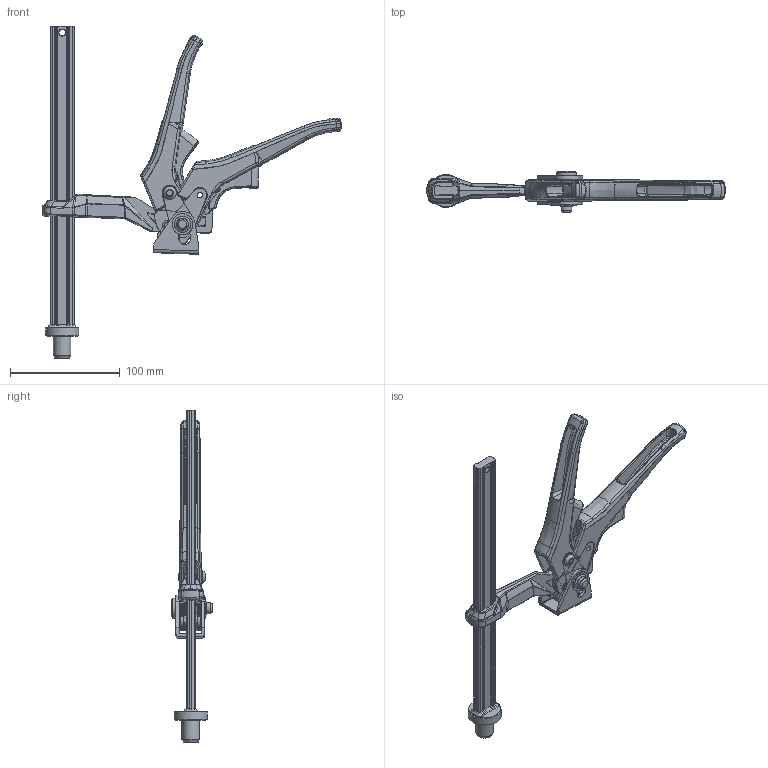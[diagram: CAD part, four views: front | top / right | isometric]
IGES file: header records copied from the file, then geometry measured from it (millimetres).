
Start section: ZWSOFT
Global section: file name: TW16-20-10H.igs; native system: ZW3D; preprocessor: 1.0; author: ZW3D; organization: ZWSOFT; date: 250604.153702; units: millimetre
Bounding box: 272.79 x 37.5 x 303 mm (x, y, z)
Surface area: 112485.5 mm2 (no closed solid volume)
Topology: 0 solids, 0 shells, 2319 faces, 12863 edges, 12676 vertices
Faces by surface type: bspline 2319
